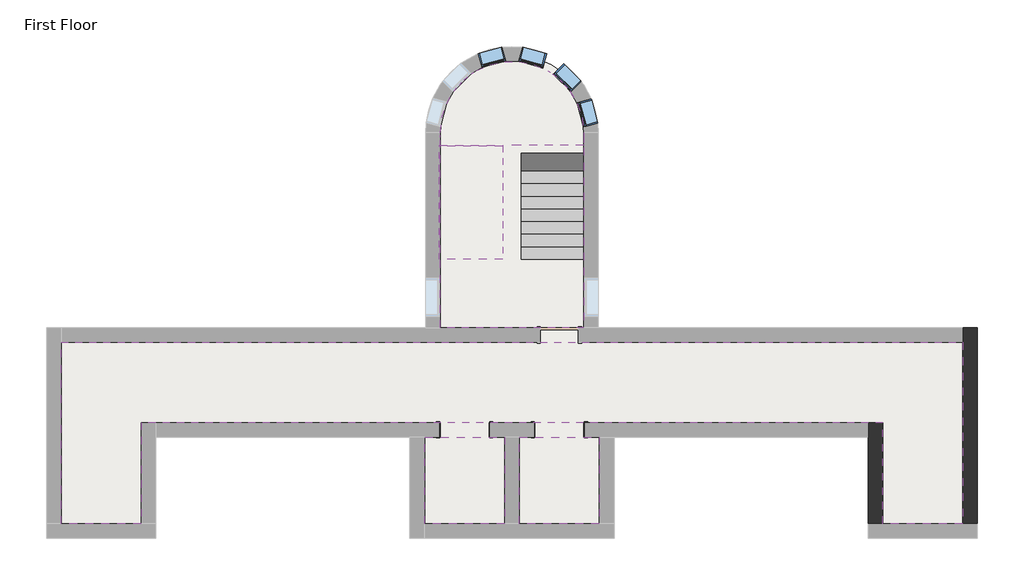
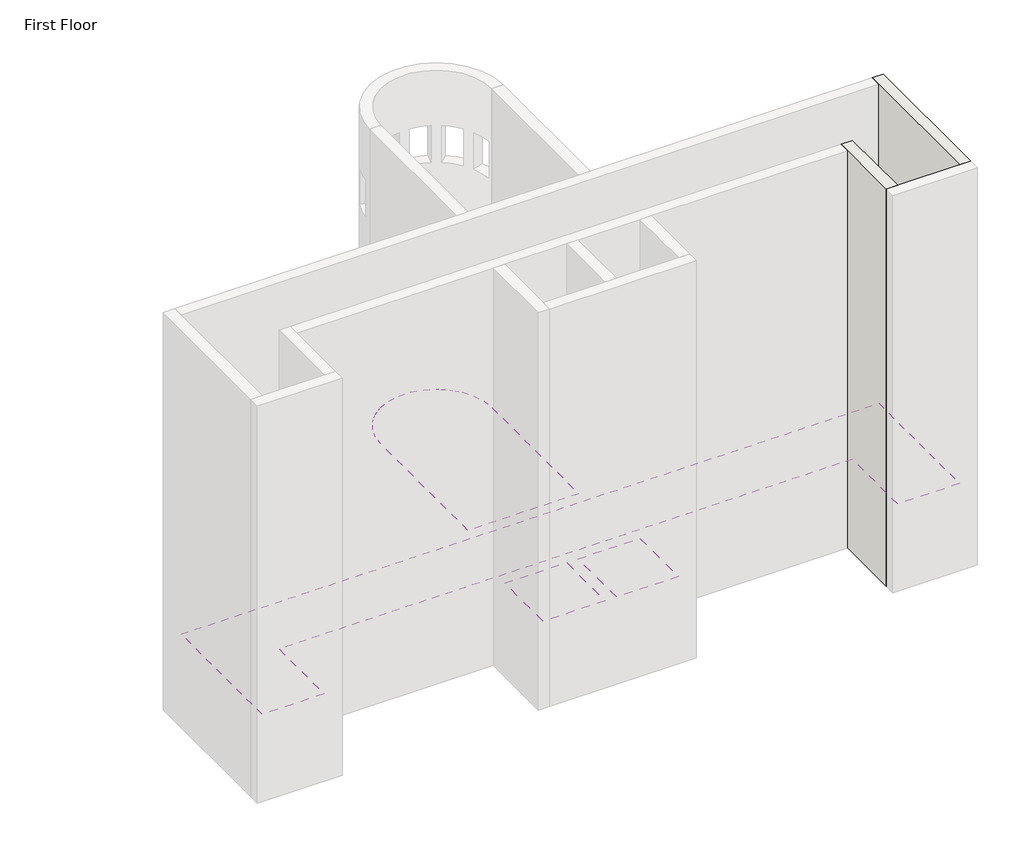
# One storey, part 3 of 3: 4 coverings, 4 windows, 2 proxies, 2 slabs, 2 stair flights, 2 walls.
"""IFC4 building model written with IfcOpenShell, lengths in millimetres."""

import ifcopenshell
import ifcopenshell.guid

model = None  # the IFC model being written
_history = None  # IfcOwnerHistory: only IFC2X3 demands one
_inside = {}  # id of a spatial element -> (the spatial element, [elements in it])
_under = {}  # id of a project, library or spatial element -> (it, [spatial elements below it])
_declared = {}  # id of a project -> (the project, [libraries it declares])
_typed = {}  # id of a type object -> (the type object, [elements of that type])
_made_of = {}  # id of a material, layer set ... -> (it, [elements and type objects made of it])


def new_model(schema):
    """Start an empty IFC model of exactly this schema.

    Asked for "IFC4X3", IfcOpenShell would pick the latest addendum, in which some entities
    have other attributes; the version numbers below select the first issue.
    IFC2X3 requires an IfcOwnerHistory on every rooted entity: one is made here for all.
    """
    global model, _history
    if schema == "IFC4X3":
        model = ifcopenshell.file(schema_version=(4, 3, 0, 0))
    else:
        model = ifcopenshell.file(schema=schema)
    _inside.clear()
    _under.clear()
    _declared.clear()
    _typed.clear()
    _made_of.clear()
    _history = None
    if model.schema == "IFC2X3":
        org = make("IfcOrganization", Name="unknown")
        user = make(
            "IfcPersonAndOrganization",
            ThePerson=make("IfcPerson", FamilyName="unknown"),
            TheOrganization=org,
        )
        app = make(
            "IfcApplication",
            ApplicationDeveloper=org,
            Version="unknown",
            ApplicationFullName="unknown",
            ApplicationIdentifier="unknown",
        )
        _history = make(
            "IfcOwnerHistory",
            OwningUser=user,
            OwningApplication=app,
            ChangeAction="ADDED",
            CreationDate=0,
        )
    return model


def make(cls, **values):
    """One entity of the class cls with the attributes given. An attribute that is None is left unset."""
    return model.create_entity(
        cls, **{name: value for name, value in values.items() if value is not None}
    )


def rooted(cls, **values):
    """An entity with a GlobalId (a new one), such as an element, a storey or a relation."""
    return make(cls, GlobalId=ifcopenshell.guid.new(), OwnerHistory=_history, **values)


def si_unit(unit_type, name, prefix=None):
    """IfcSIUnit, for example si_unit("LENGTHUNIT", "METRE", prefix="MILLI")."""
    return make("IfcSIUnit", UnitType=unit_type, Prefix=prefix, Name=name)


def assignment(units):
    """IfcUnitAssignment: the units of a project."""
    return None if units is None else make("IfcUnitAssignment", Units=units)


def point(xyz):
    """IfcCartesianPoint."""
    return None if xyz is None else make("IfcCartesianPoint", Coordinates=xyz)


def direction(xyz):
    """IfcDirection."""
    return None if xyz is None else make("IfcDirection", DirectionRatios=xyz)


def frame(location, z_axis=None, x_axis=None):
    """IfcAxis2Placement3D, a coordinate frame: its origin and axes. An axis left out is left unset."""
    return make(
        "IfcAxis2Placement3D",
        Location=point(location),
        Axis=direction(z_axis),
        RefDirection=direction(x_axis),
    )


def frame_2d(location, x_axis=None):
    """IfcAxis2Placement2D, a coordinate frame in the plane: its origin and x axis."""
    return make(
        "IfcAxis2Placement2D", Location=point(location), RefDirection=direction(x_axis)
    )


def origin():
    """The frame at (0, 0, 0) with its axes left unset."""
    return frame((0.0, 0.0, 0.0))


def place(relative_to, where):
    """IfcLocalPlacement: puts the frame where relative to a parent placement (None: the world)."""
    return make(
        "IfcLocalPlacement", PlacementRelTo=relative_to, RelativePlacement=where
    )


def context(
    kind, dimensions, precision=None, world=None, true_north=None, identifier=None
):
    """IfcGeometricRepresentationContext, for example the 3D "Model" context."""
    return make(
        "IfcGeometricRepresentationContext",
        ContextIdentifier=identifier,
        ContextType=kind,
        CoordinateSpaceDimension=dimensions,
        Precision=precision,
        WorldCoordinateSystem=world,
        TrueNorth=true_north,
    )


def project(units=None, contexts=None):
    """IfcProject with its units and contexts."""
    return rooted(
        "IfcProject",
        Name="project",
        RepresentationContexts=contexts,
        UnitsInContext=assignment(units),
    )


def spatial(cls, under=None, at=None, **own):
    """A site, building, storey or space (cls), placed at a placement, below another one or the project."""
    s = rooted(cls, ObjectPlacement=at, **own)
    if under is not None:
        _under.setdefault(under.id(), (under, []))[1].append(s)
    return s


def polyline(points):
    """IfcPolyline through the points."""
    return make("IfcPolyline", Points=[point(p) for p in points])


def circle_curve(where, radius):
    """IfcCircle in the frame where."""
    return make("IfcCircle", Position=where, Radius=radius)


def trimmed(basis, trim1, trim2, sense, master):
    """IfcTrimmedCurve: the piece of a basis curve between two trims."""
    return make(
        "IfcTrimmedCurve",
        BasisCurve=basis,
        Trim1=trim1,
        Trim2=trim2,
        SenseAgreement=sense,
        MasterRepresentation=master,
    )


def segment(curve, same_sense, transition):
    """IfcCompositeCurveSegment."""
    return make(
        "IfcCompositeCurveSegment",
        Transition=transition,
        SameSense=same_sense,
        ParentCurve=curve,
    )


def composite_curve(segments, self_intersect=None):
    """IfcCompositeCurve: segments joined end to end."""
    return make("IfcCompositeCurve", Segments=segments, SelfIntersect=self_intersect)


def outline(outer, holes=None, kind="AREA"):
    """IfcArbitraryClosedProfileDef: a profile drawn as a closed curve; with holes, ...WithVoids."""
    if holes is None:
        return make("IfcArbitraryClosedProfileDef", ProfileType=kind, OuterCurve=outer)
    return make(
        "IfcArbitraryProfileDefWithVoids",
        ProfileType=kind,
        OuterCurve=outer,
        InnerCurves=holes,
    )


def extrude(swept, where, along, depth):
    """IfcExtrudedAreaSolid: the profile swept, set in the frame where, extruded along a direction by depth."""
    return make(
        "IfcExtrudedAreaSolid",
        SweptArea=swept,
        Position=where,
        ExtrudedDirection=direction(along),
        Depth=depth,
    )


def faces_of(points, faces, orient=None, outer=None):
    """IfcFace entities. A face is a list of loops; a loop is a list of indices into points, from 0.

    orient and outer hold one flag for each loop. By default every Orientation is true, the
    first loop of a face is its IfcFaceOuterBound and the others are IfcFaceBound.
    """
    made = []
    for i, loops in enumerate(faces):
        bounds = []
        for j, loop in enumerate(loops):
            is_outer = j == 0 if outer is None else outer[i][j]
            bounds.append(
                make(
                    "IfcFaceOuterBound" if is_outer else "IfcFaceBound",
                    Bound=make("IfcPolyLoop", Polygon=[points[k] for k in loop]),
                    Orientation=True if orient is None else orient[i][j],
                )
            )
        made.append(make("IfcFace", Bounds=bounds))
    return made


def faceted_brep(points, faces, orient=None, outer=None, voids=None):
    """IfcFacetedBrep: a solid bounded by flat faces; with voids (closed shells), ...WithVoids."""
    shared = [point(p) for p in points]
    hull = make("IfcClosedShell", CfsFaces=faces_of(shared, faces, orient, outer))
    if voids is None:
        return make("IfcFacetedBrep", Outer=hull)
    return make(
        "IfcFacetedBrepWithVoids",
        Outer=hull,
        Voids=[
            make(cls, CfsFaces=faces_of(shared, fs, o, b)) for cls, fs, o, b in voids
        ],
    )


def shape(context_of_items, identifier, shape_type, items):
    """IfcShapeRepresentation: the items that make up one representation, for example the "Body"."""
    return make(
        "IfcShapeRepresentation",
        ContextOfItems=context_of_items,
        RepresentationIdentifier=identifier,
        RepresentationType=shape_type,
        Items=items,
    )


def source(mapping_origin, context_of_items, identifier, shape_type, items):
    """IfcRepresentationMap: a shape defined once, which mapped items show again and again."""
    return make(
        "IfcRepresentationMap",
        MappingOrigin=mapping_origin,
        MappedRepresentation=shape(context_of_items, identifier, shape_type, items),
    )


def transform(
    local_origin,
    x_axis=None,
    y_axis=None,
    z_axis=None,
    scale=None,
    scale2=None,
    scale3=None,
    uniform=True,
):
    """IfcCartesianTransformationOperator3D, or its non-uniform kind. x_axis, y_axis, z_axis: its Axis1, 2, 3."""
    if uniform:
        return make(
            "IfcCartesianTransformationOperator3D",
            Axis1=direction(x_axis),
            Axis2=direction(y_axis),
            LocalOrigin=point(local_origin),
            Scale=scale,
            Axis3=direction(z_axis),
        )
    return make(
        "IfcCartesianTransformationOperator3DnonUniform",
        Axis1=direction(x_axis),
        Axis2=direction(y_axis),
        LocalOrigin=point(local_origin),
        Scale=scale,
        Axis3=direction(z_axis),
        Scale2=scale2,
        Scale3=scale3,
    )


def mapped(mapping_source, mapping_target):
    """IfcMappedItem: shows the shape of a source again, moved by a transform."""
    return make(
        "IfcMappedItem", MappingSource=mapping_source, MappingTarget=mapping_target
    )


def made_of(thing, what):
    """Note that an element or type object is made of a material, layer set ...; save() writes the relation."""
    if what is not None:
        _made_of.setdefault(what.id(), (what, []))[1].append(thing)
    return thing


def element(
    cls,
    number,
    at=None,
    inside=None,
    cuts=None,
    type_object=None,
    material=None,
    context=None,
    identifier="Body",
    shape_type=None,
    held_by="IfcProductDefinitionShape",
    body=None,
    shapes=None,
    **own,
):
    """One element of the class cls, such as IfcWall. Its Tag is "e" and its number.

    at: its placement. inside: the storey or other place that contains it. cuts: it is an
    opening in that element (IfcRelVoidsElement). A single representation is given by context,
    identifier, shape_type and body (its items); several are given by shapes. held_by: the class
    of the entity that holds the representations. save() writes the other relations.
    """
    e = rooted(cls, Tag="e%d" % number, ObjectPlacement=at, **own)
    if body is not None:
        shapes = [shape(context, identifier, shape_type, body)]
    if shapes is not None:
        e.Representation = make(held_by, Representations=shapes)
    if inside is not None:
        _inside.setdefault(inside.id(), (inside, []))[1].append(e)
    if cuts is not None:
        rooted(
            "IfcRelVoidsElement", RelatingBuildingElement=cuts, RelatedOpeningElement=e
        )
    if type_object is not None:
        _typed.setdefault(type_object.id(), (type_object, []))[1].append(e)
    return made_of(e, material)


def aggregate(whole, parts):
    """IfcRelAggregates: a whole, such as a stair, and the parts it consists of."""
    return rooted("IfcRelAggregates", RelatingObject=whole, RelatedObjects=parts)


def save(model, path):
    """Write the relations noted so far, then the file.

    IfcRelAggregates (storeys below a building ...), IfcRelContainedInSpatialStructure (elements
    in a storey), IfcRelDefinesByType, IfcRelAssociatesMaterial and IfcRelDeclares: one each for
    every whole, place, type object, material and project.
    """
    for whole, parts in _under.values():
        aggregate(whole, parts)
    for where, things in _inside.values():
        rooted(
            "IfcRelContainedInSpatialStructure",
            RelatedElements=things,
            RelatingStructure=where,
        )
    for kind, things in _typed.values():
        rooted("IfcRelDefinesByType", RelatedObjects=things, RelatingType=kind)
    for what, things in _made_of.values():
        rooted("IfcRelAssociatesMaterial", RelatedObjects=things, RelatingMaterial=what)
    for by, libraries in _declared.values():
        rooted("IfcRelDeclares", RelatingContext=by, RelatedDefinitions=libraries)
    model.write(path)


def plane_surface(at):
    """IfcPlane: the flat surface through the origin of the frame at, square to its z axis."""
    return make("IfcPlane", Position=at)


def cylinder_surface(at, radius):
    """IfcCylindricalSurface: all points at the distance radius from the z axis of the frame at."""
    return make("IfcCylindricalSurface", Position=at, Radius=radius)


def advanced_brep(points, edges, surfaces, faces):
    """IfcAdvancedBrep: a solid bounded by faces that lie on surfaces and meet in shared edges.

    An edge is (start, end): straight between two places in points (the first is 0);
    or (start, end, curve); or (start, end, curve, False) where it runs against its curve.
    A face is (place in surfaces, loops), or (place, loops, False) where it looks against
    its surface's normal. A loop lists edges by number (the first is 1), with a minus sign
    where the edge is run from its end to its start. The first loop is the outer one.
    """
    corners = [point(p) for p in points]
    vertices = [make("IfcVertexPoint", VertexGeometry=c) for c in corners]
    made = []
    for start, end, *more in edges:
        made.append(
            make(
                "IfcEdgeCurve",
                EdgeStart=vertices[start],
                EdgeEnd=vertices[end],
                EdgeGeometry=more[0] if more else make("IfcPolyline", Points=[corners[start], corners[end]]),
                SameSense=more[1] if len(more) > 1 else True,
            )
        )
    hull = []
    for where, loops, *sense in faces:
        bounds = []
        for j, loop in enumerate(loops):
            ring = [make("IfcOrientedEdge", EdgeElement=made[abs(k) - 1], Orientation=k > 0) for k in loop]
            bounds.append(
                make(
                    "IfcFaceOuterBound" if j == 0 else "IfcFaceBound",
                    Bound=make("IfcEdgeLoop", EdgeList=ring),
                    Orientation=True,
                )
            )
        hull.append(make("IfcAdvancedFace", Bounds=bounds, FaceSurface=surfaces[where], SameSense=sense[0] if sense else True))
    return make("IfcAdvancedBrep", Outer=make("IfcClosedShell", CfsFaces=hull))


def proxy_c3589814(model_context):
    return source(origin(), model_context, "Body", "SolidModel", [
        extrude(outline(polyline([(0.0, -611.4386567), (2127.25, -611.4386567), (2127.25, 595.0613433), (0.0, 595.0613433), (0.0, 671.2613433), (2203.45, 671.2613433), (2203.45, -687.6386567), (0.0, -687.6386567), (0.0, -611.4386567)])), frame((0.0, -195.2625, 0.0), z_axis=(0.0, 1.0, 0.0), x_axis=(0.0, 0.0, 1.0)), (0.0, 0.0, 1.0), 19.05),
        extrude(outline(polyline([(0.0, 671.2613433), (2209.8, 671.2613433), (2209.8, -687.6386567), (0.0, -687.6386567), (0.0, -611.4386567), (2127.25, -611.4386567), (2127.25, 595.0613433), (0.0, 595.0613433), (0.0, 671.2613433)])), frame((0.0, 176.2125, 0.0), z_axis=(0.0, 1.0, 0.0), x_axis=(0.0, 0.0, 1.0)), (0.0, 0.0, 1.0), 19.05),
        faceted_brep([(582.3613433, 176.2125, 0.0), (601.4113433, 176.2125, 0.0), (601.4113433, -176.2125, 0.0), (582.3613433, -176.2125, 0.0), (582.3613433, 176.2125, 2114.55), (601.4113433, 176.2125, 2133.6), (601.4113433, -176.2125, 2133.6), (582.3613433, -176.2125, 2114.55), (-598.7386567, 176.2125, 2114.55), (-617.7886567, 176.2125, 2133.6), (-617.7886567, -176.2125, 2133.6), (-598.7386567, -176.2125, 2114.55), (-598.7386567, 176.2125, 0.0), (-598.7386567, -176.2125, 0.0), (-617.7886567, -176.2125, 0.0), (-617.7886567, 176.2125, 0.0)], [[[0, 1, 2, 3]], [[1, 0, 4, 5]], [[2, 1, 5, 6]], [[3, 2, 6, 7]], [[0, 3, 7, 4]], [[5, 4, 8, 9]], [[6, 5, 9, 10]], [[7, 6, 10, 11]], [[4, 7, 11, 8]], [[12, 13, 14, 15]], [[9, 8, 12, 15]], [[10, 9, 15, 14]], [[11, 10, 14, 13]], [[8, 11, 13, 12]]]),
    ])


def window_60baf983(model_context):
    return source(origin(), model_context, "Body", "SweptSolid", [
        extrude(outline(polyline([(203.2, 128.5875), (-279.4, 128.5875), (-279.4, 141.2875), (203.2, 141.2875), (203.2, 128.5875)])), frame((0.0, 0.0, 977.9), z_axis=(0.0, 0.0, 1.0), x_axis=(1.0, 0.0, 0.0)), (0.0, 0.0, 1.0), 1092.2),
        extrude(outline(polyline([(2114.55, -323.85), (933.45, -323.85), (933.45, 247.65), (2114.55, 247.65), (2114.55, -323.85)]), holes=[polyline([(2070.1, -279.4), (2070.1, 203.2), (977.9, 203.2), (977.9, -279.4), (2070.1, -279.4)])]), frame((0.0, 112.7125, 0.0), z_axis=(0.0, 1.0, 0.0), x_axis=(0.0, 0.0, 1.0)), (0.0, 0.0, 1.0), 44.45),
        extrude(outline(polyline([(2133.6, -342.9), (914.4, -342.9), (914.4, 266.7), (2133.6, 266.7), (2133.6, -342.9)]), holes=[polyline([(2101.85, -311.15), (2101.85, 234.95), (946.15, 234.95), (946.15, -311.15), (2101.85, -311.15)])]), frame((0.0, -176.2125, 0.0), z_axis=(0.0, 1.0, 0.0), x_axis=(0.0, 0.0, 1.0)), (0.0, 0.0, 1.0), 288.925),
        extrude(outline(polyline([(2133.6, 266.7), (2133.6, -342.9), (914.4, -342.9), (914.4, 266.7), (2133.6, 266.7)]), holes=[polyline([(2114.55, 247.65), (933.45, 247.65), (933.45, -323.85), (2114.55, -323.85), (2114.55, 247.65)])]), frame((0.0, 112.7125, 0.0), z_axis=(0.0, 1.0, 0.0), x_axis=(0.0, 0.0, 1.0)), (0.0, 0.0, 1.0), 63.5),
    ])


model = new_model("IFC4")

# Units and contexts
model_context = context("Model", 3, world=origin())
ifc_project = project(units=[si_unit("LENGTHUNIT", "METRE", prefix="MILLI")], contexts=[model_context])

# Site, building, storey
site = spatial("IfcSite", under=ifc_project)
building = spatial("IfcBuilding", under=site)
storey = spatial("IfcBuildingStorey", under=building, Name="First Floor", Elevation=0.0)

# Proxies
placement = place(None, origin())
proxy_shape = proxy_c3589814(model_context)
element("IfcBuildingElementProxy", 1, Name="Opening-Cased : 48\" x 84\"", ObjectType="Opening-Cased : 48\" x 84\"", at=placement, inside=storey, context=model_context, shape_type="MappedRepresentation", body=[
    mapped(proxy_shape, transform((-7396.8036255, 2429.9758812, 0.0), x_axis=(-1.0, 0.0, 0.0), y_axis=(0.0, -1.0, 0.0), z_axis=(0.0, 0.0, 1.0))),
])
element("IfcBuildingElementProxy", 2, Name="Opening-Cased : 48\" x 84\"", ObjectType="Opening-Cased : 48\" x 84\"", at=placement, inside=storey, context=model_context, shape_type="MappedRepresentation", body=[
    mapped(proxy_shape, transform((-5110.8036255, 2429.9758812, 0.0), x_axis=(-1.0, 0.0, 0.0), y_axis=(0.0, -1.0, 0.0), z_axis=(0.0, 0.0, 1.0))),
])

# Coverings
element("IfcCovering", 3, ObjectType="GWB on Mtl. Stud", at=placement, inside=storey, context=model_context, shape_type="SweptSolid", body=[
    extrude(outline(polyline([(2693.5975313, 167.7883812), (2693.5975313, 2606.1883812), (-15184.8274687, 2606.1883812), (-15184.8274687, 167.7883812), (-17118.4024687, 167.7883812), (-17118.4024687, 4539.7633812), (4627.1725313, 4539.7633812), (4627.1725313, 167.7883812), (2693.5975313, 167.7883812)])), frame((0.0, 0.0, 2590.8), z_axis=(0.0, 0.0, 1.0), x_axis=(1.0, 0.0, 0.0)), (0.0, 0.0, 1.0), 107.95),
])
element("IfcCovering", 4, ObjectType="GWB on Mtl. Stud", at=placement, inside=storey, context=model_context, shape_type="SweptSolid", body=[
    extrude(outline(composite_curve([segment(polyline([(-7974.4024687, 4892.1883812), (-7974.4024687, 9592.7758812)]), True, "CONTINUOUS"), segment(trimmed(circle_curve(frame_2d((-6245.6149687, 9592.7758812)), 1728.7875), [point((-7974.4024687, 9592.7758812))], [point((-4516.8274687, 9592.7758812))], False, "CARTESIAN"), True, "CONTINUOUS"), segment(polyline([(-4516.8274687, 9592.7758812), (-4516.8274687, 4892.1883812), (-7974.4024687, 4892.1883812)]), True, "CONTINUOUS")], self_intersect=False)), frame((0.0, 0.0, 2590.8), z_axis=(0.0, 0.0, 1.0), x_axis=(1.0, 0.0, 0.0)), (0.0, 0.0, 1.0), 107.95),
])
element("IfcCovering", 5, ObjectType="GWB on Mtl. Stud", at=placement, inside=storey, context=model_context, shape_type="SweptSolid", body=[
    extrude(outline(polyline([(-6421.8274687, 167.7883812), (-8355.4024687, 167.7883812), (-8355.4024687, 2253.7633812), (-6421.8274687, 2253.7633812), (-6421.8274687, 167.7883812)])), frame((0.0, 0.0, 2590.8), z_axis=(0.0, 0.0, 1.0), x_axis=(1.0, 0.0, 0.0)), (0.0, 0.0, 1.0), 107.95),
])
element("IfcCovering", 6, ObjectType="GWB on Mtl. Stud", at=placement, inside=storey, context=model_context, shape_type="SweptSolid", body=[
    extrude(outline(polyline([(-4135.8274687, 2253.7633812), (-4135.8274687, 167.7883812), (-6069.4024687, 167.7883812), (-6069.4024687, 2253.7633812), (-4135.8274687, 2253.7633812)])), frame((0.0, 0.0, 2590.8), z_axis=(0.0, 0.0, 1.0), x_axis=(1.0, 0.0, 0.0)), (0.0, 0.0, 1.0), 107.95),
])

# Slabs
element("IfcSlab", 7, ObjectType="7\" Thickness", at=placement, inside=storey, context=model_context, shape_type="AdvancedBrep", body=[
    advanced_brep(
    [(-4516.8274687, 9287.9758812, 1524.0), (-6017.0149687, 9287.9758812, 1524.0), (-6017.0149687, 9307.0258812, 1371.6), (-4516.8274687, 9307.0258812, 1371.6), (-7974.4024687, 9287.9758812, 1524.0), (-7998.2149687, 9287.9758812, 1524.0), (-7998.2149687, 9268.9258812, 1524.0), (-6474.2149687, 9268.9258812, 1524.0), (-6474.2149687, 9287.9758812, 1524.0), (-4516.8274687, 9398.2161978, 1524.0), (-4516.8274687, 9592.7758812, 1524.0), (-7974.4024687, 9592.7758812, 1524.0), (-7974.4024687, 9482.5355646, 1524.0), (-6017.0149687, 9307.0258812, 1346.2), (-6017.0149687, 9307.0258812, 1300.6048417), (-4516.8274687, 9307.0258812, 1300.6048417), (-7998.2149687, 9268.9258812, 1453.0048417), (-6474.2149687, 9268.9258812, 1453.0048417), (-6474.2149687, 9287.9758812, 1443.4798417), (-6474.2149687, 9287.9758812, 1346.2), (-6017.0149687, 9287.9758812, 1346.2), (-6474.2149687, 9482.5355646, 1346.2), (-7974.4024687, 9482.5355646, 1346.2), (-7974.4024687, 9592.7758812, 1346.2), (-4516.8274687, 9592.7758812, 1346.2), (-4516.8274687, 9398.2161978, 1346.2), (-6017.0149687, 9398.2161978, 1346.2), (-7998.2149687, 9287.9758812, 1443.4798417), (-7974.4024687, 9287.9758812, 1443.4798417)],
    [
        (0, 1),
        (1, 2),
        (2, 3),
        (3, 0),
        (4, 5),
        (5, 6),
        (6, 7),
        (7, 8),
        (8, 1),
        (0, 9),
        (9, 10),
        (10, 11, circle_curve(frame((-6245.6149687, 9592.7758812, 1524.0), z_axis=(0.0, 0.0, 1.0), x_axis=(1.0, 0.0, 0.0)), 1728.7875)),
        (11, 12),
        (12, 4),
        (2, 13),
        (13, 14),
        (14, 15),
        (15, 3),
        (6, 16),
        (16, 17),
        (17, 7),
        (8, 18),
        (18, 19),
        (19, 20),
        (20, 1),
        (19, 21),
        (21, 22),
        (22, 23),
        (23, 24, circle_curve(frame((-6245.6149687, 9592.7758812, 1346.2), z_axis=(0.0, 0.0, -1.0), x_axis=(1.0, 0.0, 0.0)), 1728.7875)),
        (24, 25),
        (25, 26),
        (26, 13),
        (13, 20),
        (25, 15),
        (14, 26),
        (21, 18),
        (18, 17),
        (16, 27),
        (27, 28),
        (28, 22),
        (5, 27),
        (4, 28),
        (24, 10),
        (23, 11),
    ],
    [
        plane_surface(frame((-4516.8274687, 9287.9758812, 1524.0), z_axis=(0.0, -0.9922778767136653, -0.12403473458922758), x_axis=(-1.0, 0.0, 0.0))),
        plane_surface(frame((-7974.4024687, 9287.9758812, 1524.0), z_axis=(0.0, 0.0, 1.0), x_axis=(-1.0, 0.0, 0.0))),
        plane_surface(frame((-6017.0149687, 9307.0258812, 1524.0), z_axis=(0.0, -1.0, 0.0), x_axis=(0.0, 0.0, -1.0))),
        plane_surface(frame((-7998.2149687, 9268.9258812, 1524.0), z_axis=(0.0, -1.0, 0.0), x_axis=(0.0, 0.0, -1.0))),
        plane_surface(frame((-6474.2149687, 9287.9758812, 1524.0), z_axis=(0.0, -1.0, 0.0), x_axis=(0.0, 0.0, -1.0))),
        plane_surface(frame((-6474.2149687, 9482.5355646, 1346.2), z_axis=(0.0, 0.0, -1.0), x_axis=(-1.0, 0.0, 0.0))),
        plane_surface(frame((-5255.0149687, 6544.7758812, -80.5201583), z_axis=(0.0, 0.4472135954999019, -0.8944271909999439), x_axis=(1.0, 0.0, 0.0))),
        plane_surface(frame((-6017.0149687, 6544.7758812, -80.5201583), z_axis=(-1.0, 0.0, 0.0), x_axis=(0.0, 0.0, 1.0))),
        plane_surface(frame((-7236.2149687, 9287.9758812, 1443.4798417), z_axis=(0.0, -0.4472135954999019, -0.8944271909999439), x_axis=(1.0, 0.0, 0.0))),
        plane_surface(frame((-7998.2149687, 9287.9758812, 1524.0), z_axis=(-1.0, 0.0, 0.0), x_axis=(0.0, 0.0, -1.0))),
        plane_surface(frame((-6474.2149687, 9268.9258812, 1524.0), z_axis=(1.0, 0.0, 0.0), x_axis=(0.0, 0.0, -1.0))),
        plane_surface(frame((-6474.2149687, 9482.5355646, 1879.6), z_axis=(-1.0, 0.0, 0.0), x_axis=(0.0, 0.0, -1.0))),
        plane_surface(frame((-7974.4024687, 9287.9758812, 1524.0), z_axis=(0.0, 1.0, 0.0), x_axis=(0.0, 0.0, -1.0))),
        plane_surface(frame((-6017.0149687, 9287.9758812, 1524.0), z_axis=(1.0, 0.0, 0.0), x_axis=(0.0, 0.0, -1.0))),
        plane_surface(frame((-4516.8274687, 9307.0258812, 1524.0), z_axis=(1.0, 0.0, 0.0), x_axis=(0.0, 0.0, -1.0))),
        cylinder_surface(frame((-6245.6149687, 9592.7758812, 635.0), z_axis=(0.0, 0.0, 1.0), x_axis=(1.0, 0.0, 0.0)), 1728.7875),
        plane_surface(frame((-7974.4024687, 9592.7758812, 1524.0), z_axis=(-1.0, 0.0, 0.0), x_axis=(0.0, 0.0, -1.0))),
    ],
    [
        (0, [[1, 2, 3, 4]]),
        (1, [[5, 6, 7, 8, 9, -1, 10, 11, 12, 13, 14]]),
        (2, [[-3, 15, 16, 17, 18]]),
        (3, [[-7, 19, 20, 21]]),
        (4, [[-9, 22, 23, 24, 25]]),
        (5, [[26, 27, 28, 29, 30, 31, 32, 33, -24]]),
        (6, [[-31, 34, -17, 35]]),
        (7, [[-32, -35, -16]]),
        (8, [[-27, 36, 37, -20, 38, 39, 40]]),
        (9, [[-6, 41, -38, -19]]),
        (10, [[-8, -21, -37, -22]]),
        (11, [[-26, -23, -36]]),
        (12, [[-5, 42, -39, -41]]),
        (13, [[-2, -25, -33, -15]]),
        (14, [[-4, -18, -34, -30, 43, -11, -10]]),
        (15, [[-12, -43, -29, 44]]),
        (16, [[-13, -44, -28, -40, -42, -14]]),
    ],
),
])
element("IfcSlab", 8, ObjectType="LW Concrete on Metal Deck", at=placement, inside=storey, context=model_context, shape_type="SweptSolid", body=[
    extrude(outline(composite_curve([segment(polyline([(-17305.7274687, 4552.4633812), (-17305.7274687, 4715.9758812), (-8139.5024687, 4715.9758812), (-8139.5024687, 9592.7758812)]), True, "CONTINUOUS"), segment(trimmed(circle_curve(frame_2d((-6245.6149687, 9592.7758812)), 1893.8875), [point((-8139.5024687, 9592.7758812))], [point((-4351.7274687, 9592.7758812))], False, "CARTESIAN"), True, "CONTINUOUS"), segment(polyline([(-4351.7274687, 9592.7758812), (-4351.7274687, 4715.9758812), (4803.3850313, 4715.9758812), (4803.3850313, -19.5366188), (2680.8975313, -19.5366188), (2680.8975313, 2593.4883812), (-4123.1274687, 2593.4883812), (-4123.1274687, 155.0883812), (-8368.1024687, 155.0883812), (-8368.1024687, 2593.4883812), (-15172.1274687, 2593.4883812), (-15172.1274687, -19.5366188), (-17305.7274687, -19.5366188), (-17305.7274687, 4552.4633812)]), True, "CONTINUOUS")], self_intersect=False)), frame((0.0, 0.0, -104.775), z_axis=(0.0, 0.0, 1.0), x_axis=(1.0, 0.0, 0.0)), (0.0, 0.0, 1.0), 104.775),
])

# Stair flights
element("IfcStairFlight", 9, ObjectType="3/4\" Nosing", at=placement, inside=storey, context=model_context, shape_type="Brep", body=[
    faceted_brep([(-4493.0149687, 6544.7758812, 152.4), (-6017.0149687, 6544.7758812, 152.4), (-6017.0149687, 6563.8258812, 0.0), (-4493.0149687, 6563.8258812, 0.0), (-4493.0149687, 6868.6258812, 152.4), (-6017.0149687, 6868.6258812, 152.4), (-6017.0149687, 6868.6258812, 81.4048417), (-6017.0149687, 6705.8161978, 0.0), (-4493.0149687, 6705.8161978, 0.0), (-4493.0149687, 6868.6258812, 81.4048417), (-6017.0149687, 6849.5758812, 304.8), (-4493.0149687, 6849.5758812, 304.8), (-4493.0149687, 7173.4258812, 304.8), (-6017.0149687, 7173.4258812, 304.8), (-6017.0149687, 7173.4258812, 233.8048417), (-4493.0149687, 7173.4258812, 233.8048417), (-6017.0149687, 7154.3758812, 457.2), (-4493.0149687, 7154.3758812, 457.2), (-4493.0149687, 7478.2258812, 457.2), (-6017.0149687, 7478.2258812, 457.2), (-6017.0149687, 7478.2258812, 386.2048417), (-4493.0149687, 7478.2258812, 386.2048417), (-6017.0149687, 7459.1758812, 609.6), (-4493.0149687, 7459.1758812, 609.6), (-4493.0149687, 7783.0258812, 609.6), (-6017.0149687, 7783.0258812, 609.6), (-6017.0149687, 7783.0258812, 538.6048417), (-4493.0149687, 7783.0258812, 538.6048417), (-6017.0149687, 7763.9758812, 762.0), (-4493.0149687, 7763.9758812, 762.0), (-4493.0149687, 8087.8258812, 762.0), (-6017.0149687, 8087.8258812, 762.0), (-6017.0149687, 8087.8258812, 691.0048417), (-4493.0149687, 8087.8258812, 691.0048417), (-6017.0149687, 8068.7758812, 914.4), (-4493.0149687, 8068.7758812, 914.4), (-4493.0149687, 8392.6258812, 914.4), (-6017.0149687, 8392.6258812, 914.4), (-6017.0149687, 8392.6258812, 843.4048417), (-4493.0149687, 8392.6258812, 843.4048417), (-6017.0149687, 8373.5758812, 1066.8), (-4493.0149687, 8373.5758812, 1066.8), (-4493.0149687, 8697.4258812, 1066.8), (-6017.0149687, 8697.4258812, 1066.8), (-6017.0149687, 8697.4258812, 995.8048417), (-4493.0149687, 8697.4258812, 995.8048417), (-6017.0149687, 8678.3758812, 1219.2), (-4493.0149687, 8678.3758812, 1219.2), (-4493.0149687, 9002.2258812, 1219.2), (-6017.0149687, 9002.2258812, 1219.2), (-6017.0149687, 9002.2258812, 1148.2048417), (-4493.0149687, 9002.2258812, 1148.2048417), (-6017.0149687, 8983.1758812, 1371.6), (-4493.0149687, 8983.1758812, 1371.6), (-4493.0149687, 9287.9758812, 1371.6), (-4516.8274687, 9287.9758812, 1371.6), (-4516.8274687, 9307.0258812, 1371.6), (-6017.0149687, 9307.0258812, 1371.6), (-6017.0149687, 9287.9758812, 1371.6), (-6017.0149687, 9307.0258812, 1346.2), (-6017.0149687, 9307.0258812, 1300.6048417), (-4493.0149687, 9287.9758812, 1291.0798417), (-4516.8274687, 9307.0258812, 1300.6048417), (-4516.8274687, 9287.9758812, 1291.0798417)], [[[0, 1, 2, 3]], [[1, 0, 4, 5]], [[1, 5, 6, 7, 2]], [[4, 0, 3, 8, 9]], [[10, 11, 12, 13]], [[10, 13, 14, 6, 5]], [[12, 11, 4, 9, 15]], [[5, 4, 11, 10]], [[16, 17, 18, 19]], [[16, 19, 20, 14, 13]], [[18, 17, 12, 15, 21]], [[13, 12, 17, 16]], [[22, 23, 24, 25]], [[22, 25, 26, 20, 19]], [[24, 23, 18, 21, 27]], [[19, 18, 23, 22]], [[28, 29, 30, 31]], [[28, 31, 32, 26, 25]], [[30, 29, 24, 27, 33]], [[25, 24, 29, 28]], [[34, 35, 36, 37]], [[34, 37, 38, 32, 31]], [[36, 35, 30, 33, 39]], [[31, 30, 35, 34]], [[40, 41, 42, 43]], [[40, 43, 44, 38, 37]], [[42, 41, 36, 39, 45]], [[37, 36, 41, 40]], [[46, 47, 48, 49]], [[46, 49, 50, 44, 43]], [[48, 47, 42, 45, 51]], [[43, 42, 47, 46]], [[52, 53, 54, 55, 56, 57, 58]], [[49, 52, 58, 57, 59, 60, 50]], [[54, 53, 48, 51, 61]], [[57, 56, 62, 60, 59]], [[49, 48, 53, 52]], [[3, 2, 7, 8]], [[8, 7, 6, 14, 20, 26, 32, 38, 44, 50, 60, 62, 63, 61, 51, 45, 39, 33, 27, 21, 15, 9]], [[56, 55, 63, 62]], [[55, 54, 61, 63]]]),
])
element("IfcStairFlight", 10, ObjectType="3/4\" Nosing", at=placement, inside=storey, context=model_context, shape_type="Brep", body=[
    faceted_brep([(-7998.2149687, 9287.9758812, 1676.4), (-6474.2149687, 9287.9758812, 1676.4), (-6474.2149687, 9268.9258812, 1524.0), (-7998.2149687, 9268.9258812, 1524.0), (-7998.2149687, 8964.1258812, 1676.4), (-6474.2149687, 8964.1258812, 1676.4), (-6474.2149687, 8964.1258812, 1605.4048417), (-6474.2149687, 9268.9258812, 1453.0048417), (-7998.2149687, 9268.9258812, 1453.0048417), (-7998.2149687, 8964.1258812, 1605.4048417), (-6474.2149687, 8983.1758812, 1828.8), (-7998.2149687, 8983.1758812, 1828.8), (-7998.2149687, 8659.3258812, 1828.8), (-6474.2149687, 8659.3258812, 1828.8), (-6474.2149687, 8659.3258812, 1757.8048417), (-7998.2149687, 8659.3258812, 1757.8048417), (-6474.2149687, 8678.3758812, 1981.2), (-7998.2149687, 8678.3758812, 1981.2), (-7998.2149687, 8354.5258812, 1981.2), (-6474.2149687, 8354.5258812, 1981.2), (-6474.2149687, 8354.5258812, 1910.2048417), (-7998.2149687, 8354.5258812, 1910.2048417), (-6474.2149687, 8373.5758812, 2133.6), (-7998.2149687, 8373.5758812, 2133.6), (-7998.2149687, 8049.7258812, 2133.6), (-6474.2149687, 8049.7258812, 2133.6), (-6474.2149687, 8049.7258812, 2062.6048417), (-7998.2149687, 8049.7258812, 2062.6048417), (-6474.2149687, 8068.7758812, 2286.0), (-7998.2149687, 8068.7758812, 2286.0), (-7998.2149687, 7744.9258812, 2286.0), (-6474.2149687, 7744.9258812, 2286.0), (-6474.2149687, 7744.9258812, 2215.0048417), (-7998.2149687, 7744.9258812, 2215.0048417), (-6474.2149687, 7763.9758812, 2438.4), (-7998.2149687, 7763.9758812, 2438.4), (-7998.2149687, 7440.1258812, 2438.4), (-6474.2149687, 7440.1258812, 2438.4), (-6474.2149687, 7440.1258812, 2367.4048417), (-7998.2149687, 7440.1258812, 2367.4048417), (-6474.2149687, 7459.1758812, 2590.8), (-7998.2149687, 7459.1758812, 2590.8), (-7998.2149687, 7135.3258812, 2590.8), (-6474.2149687, 7135.3258812, 2590.8), (-6474.2149687, 7135.3258812, 2519.8048417), (-7998.2149687, 7135.3258812, 2519.8048417), (-6474.2149687, 7154.3758812, 2743.2), (-7998.2149687, 7154.3758812, 2743.2), (-7998.2149687, 6830.5258812, 2743.2), (-6474.2149687, 6830.5258812, 2743.2), (-6474.2149687, 6830.5258812, 2672.2048417), (-7998.2149687, 6830.5258812, 2672.2048417), (-6474.2149687, 6849.5758812, 2895.6), (-7998.2149687, 6849.5758812, 2895.6), (-7998.2149687, 6544.7758812, 2895.6), (-6474.2149687, 6544.7758812, 2895.6), (-6474.2149687, 6544.7758812, 2815.0798417), (-7998.2149687, 6544.7758812, 2815.0798417)], [[[0, 1, 2, 3]], [[1, 0, 4, 5]], [[1, 5, 6, 7, 2]], [[3, 2, 7, 8]], [[4, 0, 3, 8, 9]], [[10, 11, 12, 13]], [[10, 13, 14, 6, 5]], [[12, 11, 4, 9, 15]], [[11, 10, 5, 4]], [[16, 17, 18, 19]], [[16, 19, 20, 14, 13]], [[18, 17, 12, 15, 21]], [[17, 16, 13, 12]], [[22, 23, 24, 25]], [[22, 25, 26, 20, 19]], [[24, 23, 18, 21, 27]], [[23, 22, 19, 18]], [[28, 29, 30, 31]], [[28, 31, 32, 26, 25]], [[30, 29, 24, 27, 33]], [[29, 28, 25, 24]], [[34, 35, 36, 37]], [[34, 37, 38, 32, 31]], [[36, 35, 30, 33, 39]], [[35, 34, 31, 30]], [[40, 41, 42, 43]], [[40, 43, 44, 38, 37]], [[42, 41, 36, 39, 45]], [[41, 40, 37, 36]], [[46, 47, 48, 49]], [[46, 49, 50, 44, 43]], [[48, 47, 42, 45, 51]], [[47, 46, 43, 42]], [[52, 53, 54, 55]], [[52, 55, 56, 50, 49]], [[54, 53, 48, 51, 57]], [[55, 54, 57, 56]], [[53, 52, 49, 48]], [[7, 6, 14, 20, 26, 32, 38, 44, 50, 56, 57, 51, 45, 39, 33, 27, 21, 15, 9, 8]]]),
])

# Walls
element("IfcWall", 11, ObjectType="Exterior - Brick on Mtl. Stud", at=placement, inside=storey, context=model_context, shape_type="Brep", body=[
    faceted_brep([(2341.1725313, 2606.1883812, 0.0), (2341.1725313, 2253.7633812, 0.0), (2341.1725313, 167.7883812, 0.0), (2341.1725313, 167.7883812, 13106.4), (2341.1725313, 2253.7633812, 13106.4), (2341.1725313, 2606.1883812, 13106.4), (2693.5975313, 2606.1883812, 0.0), (2693.5975313, 2606.1883812, 13106.4), (2693.5975313, 167.7883812, 13106.4), (2693.5975313, 167.7883812, 0.0)], [[[0, 1, 2, 3, 4, 5]], [[6, 7, 8, 9]], [[2, 1, 0, 6, 9]], [[5, 4, 3, 8, 7]], [[0, 5, 7, 6]], [[3, 2, 9, 8]]]),
])
element("IfcWall", 12, ObjectType="Exterior - Brick on Mtl. Stud", at=placement, inside=storey, context=model_context, shape_type="Brep", body=[
    faceted_brep([(4979.5975313, 167.7883812, 0.0), (4979.5975313, 4892.1883812, 0.0), (4979.5975313, 4892.1883812, 13106.4), (4979.5975313, 167.7883812, 13106.4), (4627.1725313, 167.7883812, 0.0), (4627.1725313, 167.7883812, 13106.4), (4627.1725313, 4539.7633812, 13106.4), (4627.1725313, 4892.1883812, 13106.4), (4627.1725313, 4892.1883812, 0.0), (4627.1725313, 4539.7633812, 0.0)], [[[0, 1, 2, 3]], [[4, 5, 6, 7, 8, 9]], [[1, 0, 4, 9, 8]], [[3, 2, 7, 6, 5]], [[2, 1, 8, 7]], [[0, 3, 5, 4]]]),
])

# Windows
window_shape = window_60baf983(model_context)
element("IfcWindow", 13, ObjectType="Fixed : 24\" x 48\"", at=placement, inside=storey, context=model_context, shape_type="MappedRepresentation", body=[
    mapped(window_shape, transform((-6764.1450232, 11402.9164066, 0.0), x_axis=(-0.96671009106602, -0.25587418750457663, 0.0), y_axis=(0.25587418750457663, -0.96671009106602, 0.0), z_axis=(0.0, 0.0, 1.0))),
])
element("IfcWindow", 14, ObjectType="Fixed : 24\" x 48\"", at=placement, inside=storey, context=model_context, shape_type="MappedRepresentation", body=[
    mapped(window_shape, transform((-5789.6049059, 11419.6685878, 0.0), x_axis=(-0.9651325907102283, 0.2617614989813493, 0.0), y_axis=(-0.2617614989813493, -0.9651325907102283, 0.0), z_axis=(0.0, 0.0, 1.0))),
])
element("IfcWindow", 15, ObjectType="Fixed : 24\" x 48\"", at=placement, inside=storey, context=model_context, shape_type="MappedRepresentation", body=[
    mapped(window_shape, transform((-4937.2523166, 10946.9063437, 0.0), x_axis=(-0.7049485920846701, 0.7092584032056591, 0.0), y_axis=(-0.7092584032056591, -0.7049485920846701, 0.0), z_axis=(0.0, 0.0, 1.0))),
])
element("IfcWindow", 16, ObjectType="Fixed : 24\" x 48\"", at=placement, inside=storey, context=model_context, shape_type="MappedRepresentation", body=[
    mapped(window_shape, transform((-4435.4744434, 10111.3059357, 0.0), x_axis=(-0.25587418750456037, 0.9667100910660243, 0.0), y_axis=(-0.9667100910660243, -0.25587418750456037, 0.0), z_axis=(0.0, 0.0, 1.0))),
])

save(model, "model.ifc")
